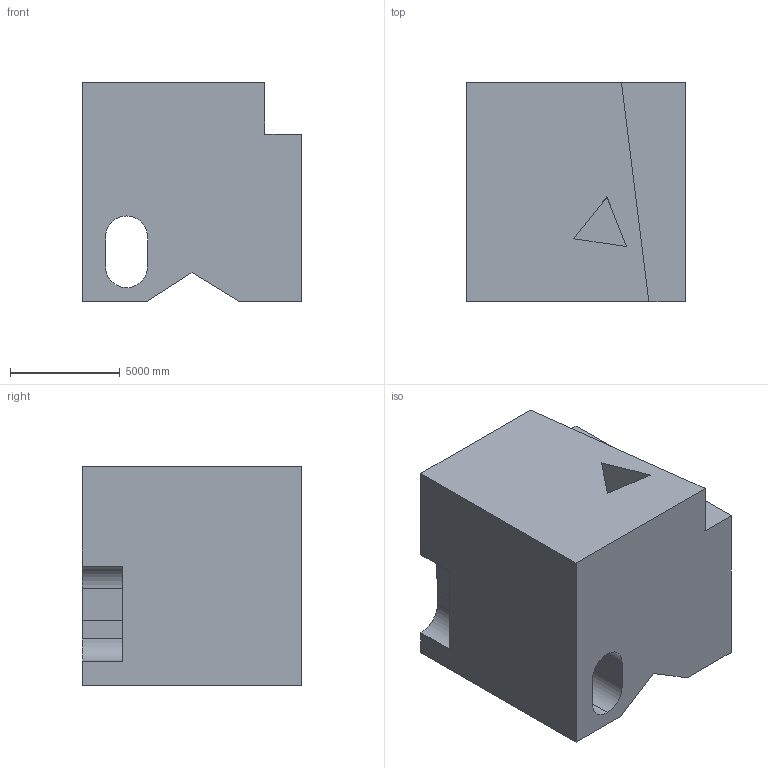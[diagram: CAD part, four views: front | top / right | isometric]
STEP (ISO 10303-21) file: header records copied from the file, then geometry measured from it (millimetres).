
FILE_DESCRIPTION (( 'STEP AP203' ), '1' );
FILE_NAME ('1437.STEP', '2022-08-18T14:28:11', ( 'user' ), ( '' ), 'SwSTEP 2.0', 'SolidWorks 2021', '' );
FILE_SCHEMA (( 'CONFIG_CONTROL_DESIGN' ));
Length unit declared in the file: centimetre
Products named in the file (1): 1437
Bounding box: 10000 x 10000 x 10000 mm (x, y, z)
Volume: 836126679827.2 mm3; surface area: 724167759.2 mm2
Topology: 1 solids, 1 shells, 24 faces, 66 edges, 44 vertices
Faces by surface type: plane 19, cylinder 5
Entity records: 841 total; most frequent: CARTESIAN_POINT 135, ORIENTED_EDGE 132, DIRECTION 126, EDGE_CURVE 66, VECTOR 56, LINE 56, VERTEX_POINT 44, AXIS2_PLACEMENT_3D 35
